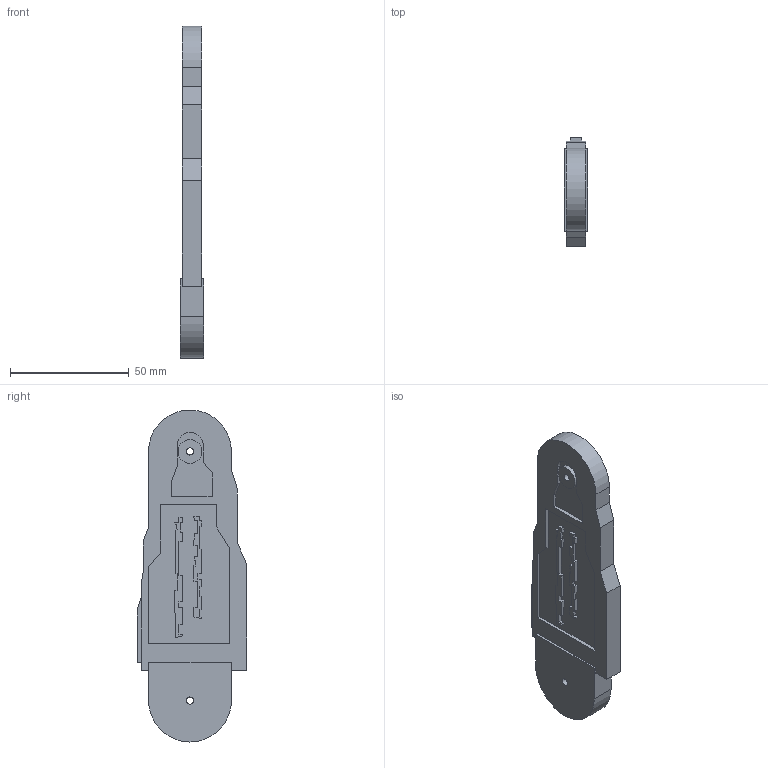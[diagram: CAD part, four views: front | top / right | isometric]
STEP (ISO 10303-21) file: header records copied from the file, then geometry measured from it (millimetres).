
FILE_DESCRIPTION(/* description */ (''),/* implementation_level */ '2;1');
FILE_NAME(/* name */ 'C:/Users/ianhu/Documents/Robots/Boosters/Ians Booster Side Plate.step',/* time_stamp */ '2019-01-21T17:53:17+10:00',/* author */ (''),/* organization */ (''),/* preprocessor_version */ 'ST-DEVELOPER v17.2',/* originating_system */ 'Autodesk Translation Framework v7.6.0.251',/* authorisation */ '');
FILE_SCHEMA (('AUTOMOTIVE_DESIGN { 1 0 10303 214 3 1 1 }'));
Length unit declared in the file: millimetre
Products named in the file (1): Booster Side Plate V1
Bounding box: 10 x 46.13 x 139.7 mm (x, y, z)
Volume: 37823.2 mm3; surface area: 15023 mm2
Topology: 1 solids, 1 shells, 209 faces, 588 edges, 392 vertices
Faces by surface type: plane 201, cylinder 8
Full cylindrical faces by diameter (mm): 3 x2, 10 x2
Entity records: 6659 total; most frequent: CARTESIAN_POINT 1190, ORIENTED_EDGE 1176, DIRECTION 1024, EDGE_CURVE 588, LINE 572, VECTOR 572, VERTEX_POINT 392, AXIS2_PLACEMENT_3D 226
